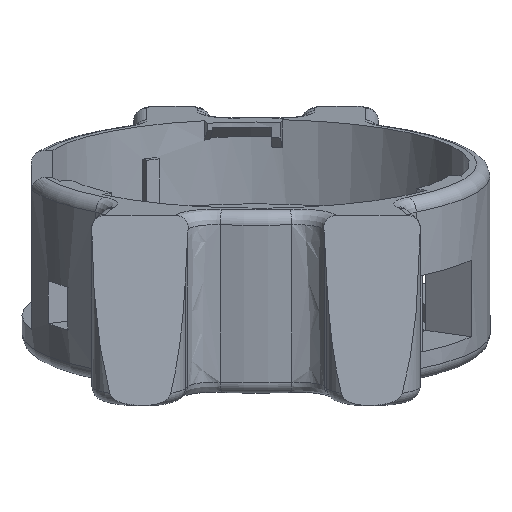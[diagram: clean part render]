
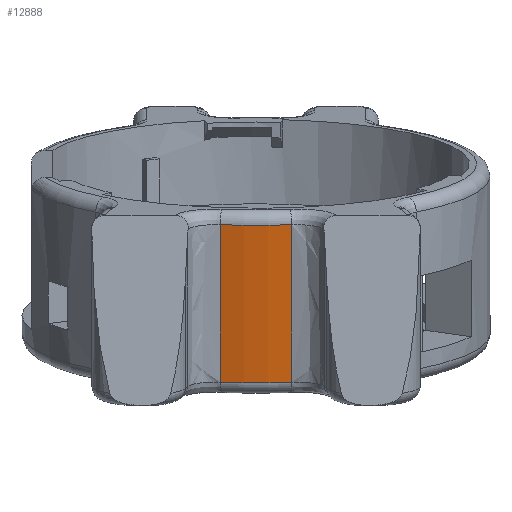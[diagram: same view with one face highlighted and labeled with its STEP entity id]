
A CAD part, front view. The second image highlights one B-rep face of the part: STEP entity #12888.
In plain terms, the highlighted cylindrical face has radius 32 mm (diameter 64 mm), a partial arc.
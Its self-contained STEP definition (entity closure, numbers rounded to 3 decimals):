
#2362 = TOROIDAL_SURFACE('',#2363,30.2,1.8);
#2363 = AXIS2_PLACEMENT_3D('',#2364,#2365,#2366);
#2364 = CARTESIAN_POINT('',(0.,33.552,23.28));
#2365 = DIRECTION('',(0.,-0.208,0.978));
#2366 = DIRECTION('',(0.153,-0.967,-0.205));
#3827 = TOROIDAL_SURFACE('',#3828,30.2,1.8);
#3828 = AXIS2_PLACEMENT_3D('',#3829,#3830,#3831);
#3829 = CARTESIAN_POINT('',(0.,38.126,1.761));
#3830 = DIRECTION('',(-0.,0.208,-0.978));
#3831 = DIRECTION('',(-0.153,-0.967,-0.205));
#6968 = ( BOUNDED_SURFACE() B_SPLINE_SURFACE(2,2,(
    (#6969,#6970,#6971,#6972,#6973)
    ,(#6974,#6975,#6976,#6977,#6978)
    ,(#6979,#6980,#6981,#6982,#6983
)),.UNSPECIFIED.,.F.,.F.,.F.) B_SPLINE_SURFACE_WITH_KNOTS((3,3),(3,1,1,3
    ),(0.,25.6),(-1.567,0.,25.6,27.167),
.UNSPECIFIED.) GEOMETRIC_REPRESENTATION_ITEM() RATIONAL_B_SPLINE_SURFACE
((
    (1.,1.,1.,1.,1.)
    ,(0.739,0.739,0.739,0.739
      ,0.739)
,(1.,1.,1.,1.,1.))) REPRESENTATION_ITEM('') SURFACE() );
#6969 = CARTESIAN_POINT('',(-4.885,1.918,
    19.998));
#6970 = CARTESIAN_POINT('',(-4.885,2.081,
    19.232));
#6971 = CARTESIAN_POINT('',(-4.885,4.905,
    5.945));
#6972 = CARTESIAN_POINT('',(-4.885,7.729,
    -7.341));
#6973 = CARTESIAN_POINT('',(-4.885,7.892,
    -8.108));
#6974 = CARTESIAN_POINT('',(-8.494,2.463,
    20.114));
#6975 = CARTESIAN_POINT('',(-8.494,2.626,
    19.348));
#6976 = CARTESIAN_POINT('',(-8.494,5.45,6.061
    ));
#6977 = CARTESIAN_POINT('',(-8.494,8.274,
    -7.226));
#6978 = CARTESIAN_POINT('',(-8.494,8.437,
    -7.992));
#6979 = CARTESIAN_POINT('',(-9.377,-1.002,
    19.377));
#6980 = CARTESIAN_POINT('',(-9.377,-0.839,
    18.611));
#6981 = CARTESIAN_POINT('',(-9.377,1.985,
    5.324));
#6982 = CARTESIAN_POINT('',(-9.377,4.809,
    -7.962));
#6983 = CARTESIAN_POINT('',(-9.377,4.972,
    -8.728));
#7303 = VERTEX_POINT('',#7304);
#7304 = CARTESIAN_POINT('',(-4.885,2.618,
    16.705));
#7441 = VERTEX_POINT('',#7442);
#7442 = CARTESIAN_POINT('',(4.885,2.618,
    16.705));
#7470 = EDGE_CURVE('',#7441,#7303,#7471,.T.);
#7471 = SURFACE_CURVE('',#7472,(#7477,#7484),.PCURVE_S1.);
#7472 = CIRCLE('',#7473,32.);
#7473 = AXIS2_PLACEMENT_3D('',#7474,#7475,#7476);
#7474 = CARTESIAN_POINT('',(0.,33.552,23.28));
#7475 = DIRECTION('',(0.,0.208,-0.978
    ));
#7476 = DIRECTION('',(0.153,-0.967,-0.205));
#7477 = PCURVE('',#2362,#7478);
#7478 = DEFINITIONAL_REPRESENTATION('',(#7479),#7483);
#7479 = LINE('',#7480,#7481);
#7480 = CARTESIAN_POINT('',(-0.,0.));
#7481 = VECTOR('',#7482,1.);
#7482 = DIRECTION('',(-1.,0.));
#7483 = ( GEOMETRIC_REPRESENTATION_CONTEXT(2) 
PARAMETRIC_REPRESENTATION_CONTEXT() REPRESENTATION_CONTEXT('2D SPACE',''
  ) );
#7484 = PCURVE('',#7485,#7490);
#7485 = CYLINDRICAL_SURFACE('',#7486,32.);
#7486 = AXIS2_PLACEMENT_3D('',#7487,#7488,#7489);
#7487 = CARTESIAN_POINT('',(0.,38.5,0.));
#7488 = DIRECTION('',(-0.,0.208,-0.978));
#7489 = DIRECTION('',(1.,0.,0.));
#7490 = DEFINITIONAL_REPRESENTATION('',(#7491),#7495);
#7491 = LINE('',#7492,#7493);
#7492 = CARTESIAN_POINT('',(-4.866,-23.8));
#7493 = VECTOR('',#7494,1.);
#7494 = DIRECTION('',(1.,-0.));
#7495 = ( GEOMETRIC_REPRESENTATION_CONTEXT(2) 
PARAMETRIC_REPRESENTATION_CONTEXT() REPRESENTATION_CONTEXT('2D SPACE',''
  ) );
#7528 = ( BOUNDED_SURFACE() B_SPLINE_SURFACE(2,2,(
    (#7529,#7530,#7531,#7532,#7533)
    ,(#7534,#7535,#7536,#7537,#7538)
    ,(#7539,#7540,#7541,#7542,#7543
)),.UNSPECIFIED.,.F.,.F.,.F.) B_SPLINE_SURFACE_WITH_KNOTS((3,3),(3,1,1,3
    ),(0.,25.6),(-1.567,0.,25.6,27.167),
.UNSPECIFIED.) GEOMETRIC_REPRESENTATION_ITEM() RATIONAL_B_SPLINE_SURFACE
((
    (1.,1.,1.,1.,1.)
    ,(0.739,0.739,0.739,0.739
      ,0.739)
,(1.,1.,1.,1.,1.))) REPRESENTATION_ITEM('') SURFACE() );
#7529 = CARTESIAN_POINT('',(4.885,1.918,
    19.998));
#7530 = CARTESIAN_POINT('',(4.885,2.081,
    19.232));
#7531 = CARTESIAN_POINT('',(4.885,4.905,5.945
    ));
#7532 = CARTESIAN_POINT('',(4.885,7.729,
    -7.341));
#7533 = CARTESIAN_POINT('',(4.885,7.892,
    -8.108));
#7534 = CARTESIAN_POINT('',(8.494,2.463,
    20.114));
#7535 = CARTESIAN_POINT('',(8.494,2.626,
    19.348));
#7536 = CARTESIAN_POINT('',(8.494,5.45,6.061)
  );
#7537 = CARTESIAN_POINT('',(8.494,8.274,
    -7.226));
#7538 = CARTESIAN_POINT('',(8.494,8.437,
    -7.992));
#7539 = CARTESIAN_POINT('',(9.377,-1.002,
    19.377));
#7540 = CARTESIAN_POINT('',(9.377,-0.839,
    18.611));
#7541 = CARTESIAN_POINT('',(9.377,1.985,5.324
    ));
#7542 = CARTESIAN_POINT('',(9.377,4.809,
    -7.962));
#7543 = CARTESIAN_POINT('',(9.377,4.972,
    -8.728));
#10334 = VERTEX_POINT('',#10335);
#10335 = CARTESIAN_POINT('',(-4.885,7.192,
    -4.815));
#10464 = EDGE_CURVE('',#10334,#10465,#10467,.T.);
#10465 = VERTEX_POINT('',#10466);
#10466 = CARTESIAN_POINT('',(4.885,7.192,
    -4.815));
#10467 = SURFACE_CURVE('',#10468,(#10473,#10480),.PCURVE_S1.);
#10468 = CIRCLE('',#10469,32.);
#10469 = AXIS2_PLACEMENT_3D('',#10470,#10471,#10472);
#10470 = CARTESIAN_POINT('',(0.,38.126,1.761));
#10471 = DIRECTION('',(0.,-0.208,
    0.978));
#10472 = DIRECTION('',(-0.153,-0.967,-0.205)
  );
#10473 = PCURVE('',#3827,#10474);
#10474 = DEFINITIONAL_REPRESENTATION('',(#10475),#10479);
#10475 = LINE('',#10476,#10477);
#10476 = CARTESIAN_POINT('',(-0.,0.));
#10477 = VECTOR('',#10478,1.);
#10478 = DIRECTION('',(-1.,0.));
#10479 = ( GEOMETRIC_REPRESENTATION_CONTEXT(2) 
PARAMETRIC_REPRESENTATION_CONTEXT() REPRESENTATION_CONTEXT('2D SPACE',''
  ) );
#10480 = PCURVE('',#7485,#10481);
#10481 = DEFINITIONAL_REPRESENTATION('',(#10482),#10486);
#10482 = LINE('',#10483,#10484);
#10483 = CARTESIAN_POINT('',(-4.559,-1.8));
#10484 = VECTOR('',#10485,1.);
#10485 = DIRECTION('',(-1.,0.));
#10486 = ( GEOMETRIC_REPRESENTATION_CONTEXT(2) 
PARAMETRIC_REPRESENTATION_CONTEXT() REPRESENTATION_CONTEXT('2D SPACE',''
  ) );
#12863 = EDGE_CURVE('',#7303,#10334,#12864,.T.);
#12864 = SURFACE_CURVE('',#12865,(#12871,#12878),.PCURVE_S1.);
#12865 = B_SPLINE_CURVE_WITH_KNOTS('',2,(#12866,#12867,#12868,#12869,
    #12870),.UNSPECIFIED.,.F.,.F.,(3,1,1,3),(-1.567,
    0.,25.6,27.167),.UNSPECIFIED.);
#12866 = CARTESIAN_POINT('',(-4.885,1.918,
    19.998));
#12867 = CARTESIAN_POINT('',(-4.885,2.081,
    19.232));
#12868 = CARTESIAN_POINT('',(-4.885,4.905,
    5.945));
#12869 = CARTESIAN_POINT('',(-4.885,7.729,
    -7.341));
#12870 = CARTESIAN_POINT('',(-4.885,7.892,
    -8.108));
#12871 = PCURVE('',#6968,#12872);
#12872 = DEFINITIONAL_REPRESENTATION('',(#12873),#12877);
#12873 = LINE('',#12874,#12875);
#12874 = CARTESIAN_POINT('',(0.,0.));
#12875 = VECTOR('',#12876,1.);
#12876 = DIRECTION('',(0.,1.));
#12877 = ( GEOMETRIC_REPRESENTATION_CONTEXT(2) 
PARAMETRIC_REPRESENTATION_CONTEXT() REPRESENTATION_CONTEXT('2D SPACE',''
  ) );
#12878 = PCURVE('',#7485,#12879);
#12879 = DEFINITIONAL_REPRESENTATION('',(#12880),#12883);
#12880 = B_SPLINE_CURVE_WITH_KNOTS('',1,(#12881,#12882),.UNSPECIFIED.,
  .F.,.F.,(2,2),(0.,25.6),.PIECEWISE_BEZIER_KNOTS.);
#12881 = CARTESIAN_POINT('',(-4.559,-25.6));
#12882 = CARTESIAN_POINT('',(-4.559,0.));
#12883 = ( GEOMETRIC_REPRESENTATION_CONTEXT(2) 
PARAMETRIC_REPRESENTATION_CONTEXT() REPRESENTATION_CONTEXT('2D SPACE',''
  ) );
#12888 = ADVANCED_FACE('',(#12889),#7485,.T.);
#12889 = FACE_BOUND('',#12890,.F.);
#12890 = EDGE_LOOP('',(#12891,#12892,#12893,#12915));
#12891 = ORIENTED_EDGE('',*,*,#12863,.F.);
#12892 = ORIENTED_EDGE('',*,*,#7470,.F.);
#12893 = ORIENTED_EDGE('',*,*,#12894,.T.);
#12894 = EDGE_CURVE('',#7441,#10465,#12895,.T.);
#12895 = SURFACE_CURVE('',#12896,(#12902,#12908),.PCURVE_S1.);
#12896 = B_SPLINE_CURVE_WITH_KNOTS('',2,(#12897,#12898,#12899,#12900,
    #12901),.UNSPECIFIED.,.F.,.F.,(3,1,1,3),(-1.567,
    0.,25.6,27.167),.UNSPECIFIED.);
#12897 = CARTESIAN_POINT('',(4.885,1.918,
    19.998));
#12898 = CARTESIAN_POINT('',(4.885,2.081,
    19.232));
#12899 = CARTESIAN_POINT('',(4.885,4.905,
    5.945));
#12900 = CARTESIAN_POINT('',(4.885,7.729,
    -7.341));
#12901 = CARTESIAN_POINT('',(4.885,7.892,
    -8.108));
#12902 = PCURVE('',#7485,#12903);
#12903 = DEFINITIONAL_REPRESENTATION('',(#12904),#12907);
#12904 = B_SPLINE_CURVE_WITH_KNOTS('',1,(#12905,#12906),.UNSPECIFIED.,
  .F.,.F.,(2,2),(0.,25.6),.PIECEWISE_BEZIER_KNOTS.);
#12905 = CARTESIAN_POINT('',(-4.866,-25.6));
#12906 = CARTESIAN_POINT('',(-4.866,0.));
#12907 = ( GEOMETRIC_REPRESENTATION_CONTEXT(2) 
PARAMETRIC_REPRESENTATION_CONTEXT() REPRESENTATION_CONTEXT('2D SPACE',''
  ) );
#12908 = PCURVE('',#7528,#12909);
#12909 = DEFINITIONAL_REPRESENTATION('',(#12910),#12914);
#12910 = LINE('',#12911,#12912);
#12911 = CARTESIAN_POINT('',(0.,0.));
#12912 = VECTOR('',#12913,1.);
#12913 = DIRECTION('',(0.,1.));
#12914 = ( GEOMETRIC_REPRESENTATION_CONTEXT(2) 
PARAMETRIC_REPRESENTATION_CONTEXT() REPRESENTATION_CONTEXT('2D SPACE',''
  ) );
#12915 = ORIENTED_EDGE('',*,*,#10464,.F.);
